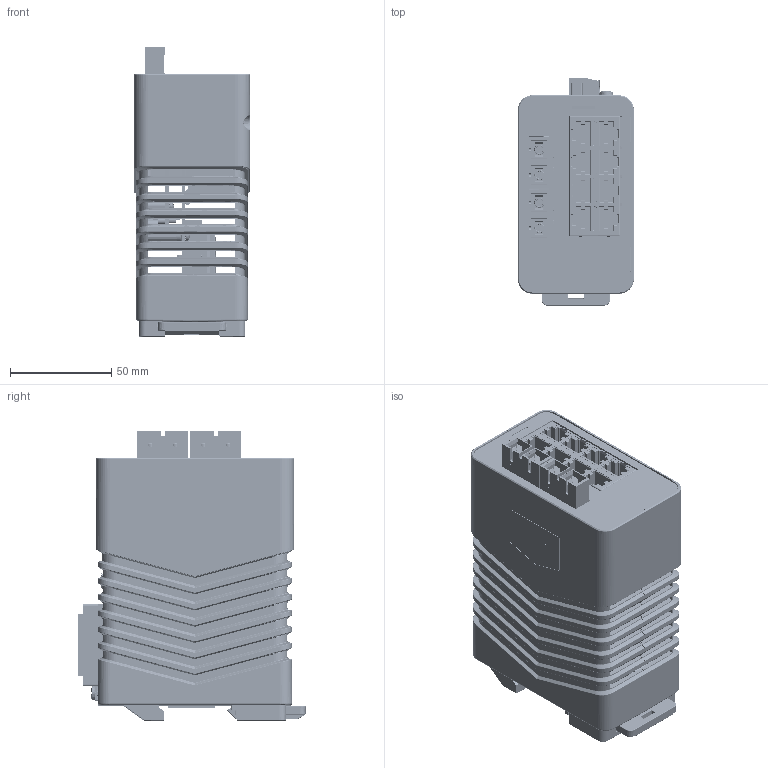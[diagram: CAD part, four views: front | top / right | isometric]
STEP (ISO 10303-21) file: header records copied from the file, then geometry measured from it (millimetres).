
FILE_DESCRIPTION (( 'STEP AP214' ), '1' );
FILE_NAME ('NT5010-FX & NT5010-GX SC.STEP', '2023-01-24T15:08:01', ( '' ), ( '' ), 'SwSTEP 2.0', 'SolidWorks 2022', '' );
FILE_SCHEMA (( 'AUTOMOTIVE_DESIGN' ));
Length unit declared in the file: millimetre
Products named in the file (24): 11071; NPTP0061; 10778; 11836; Jubilee DB_Fiber_SC; 11702_11702; 96439A130_18-8 SS PRESS-FIT NUT FOR SHEET METAL_96439A130; LOGO Sticker; 10670; 10783; 11614; 11614_ cutouts concept wide; 11612; 11821; HWSMCZ08_95345A426; 11611; NT5010-FX & NT5010-GX SC; 11617_Wide; label bulkhead; 5010 FX_GX Core Board; 11618; overlay front wide 8RJ spacing_ cutouts concept wide FIBER; 3_85 MASTER PART FILE; 11820_95345A444
Assembly tree (40 placements, depth 3):
  NT5010-FX & NT5010-GX SC
    11611
    11612
    11617_Wide
    11618
    11702_11702
    11614
      11614_ cutouts concept wide
      96439A130_18-8 SS PRESS-FIT NUT FOR SHEET METAL_96439A130  x2
    HWSMCZ08_95345A426  x13
    11820_95345A444  x4
    11821
    11836  x2
    10778
    10670
    overlay front wide 8RJ spacing_ cutouts concept wide FIBER
    label bulkhead
    LOGO Sticker
    NPTP0061
    5010 FX_GX Core Board
    Jubilee DB_Fiber_SC
    11071
    10783  x2
  3_85 MASTER PART FILE
Bounding box: 57.23 x 112.11 x 142.69 mm (x, y, z)
Volume: 217276.6 mm3; surface area: 227858.9 mm2
Topology: 61 solids, 136 shells, 14995 faces, 40418 edges, 25893 vertices
Faces by surface type: plane 8602, cylinder 3716, bspline 1797, cone 418, torus 297, sphere 165
Entity records: 528447 total; most frequent: CARTESIAN_POINT 160981, ORIENTED_EDGE 63778, DIRECTION 47622, EDGE_CURVE 31958, VERTEX_POINT 20601, LINE 16042, VECTOR 16042, AXIS2_PLACEMENT_3D 15790
